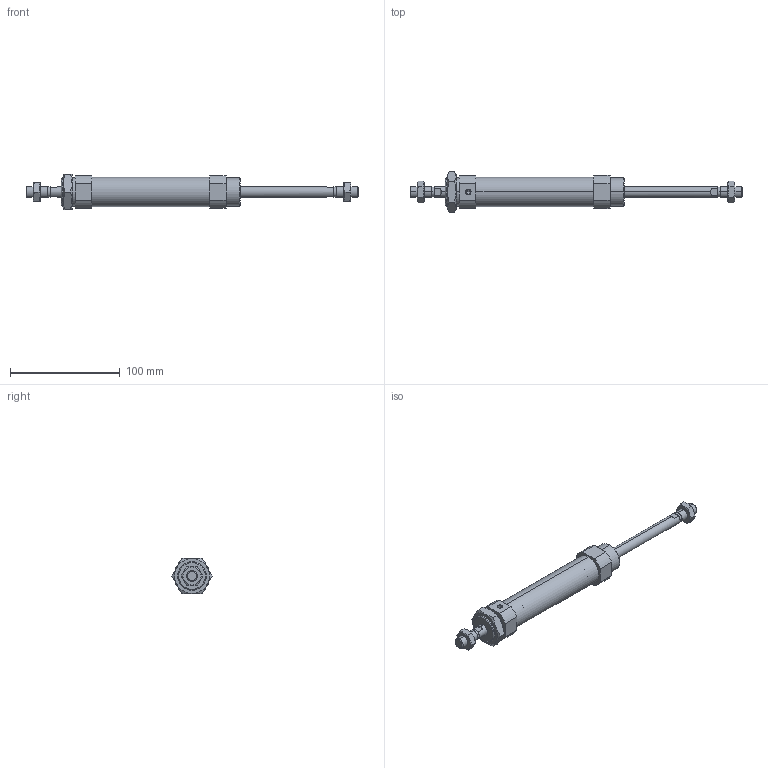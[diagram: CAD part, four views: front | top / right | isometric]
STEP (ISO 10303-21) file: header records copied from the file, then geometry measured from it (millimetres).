
FILE_DESCRIPTION (( 'STEP AP203' ), '1' );
FILE_NAME ('CSM2B25-75-P.STEP', '2020-07-20T16:43:06', ( '' ), ( '' ), 'SwSTEP 2.0', 'SolidWorks 2019', '' );
FILE_SCHEMA (( 'CONFIG_CONTROL_DESIGN' ));
Length unit declared in the file: millimetre
Products named in the file (1): CSM2B25-75-P
Bounding box: 302 x 36.95 x 32 mm (x, y, z)
Volume: 81665.4 mm3; surface area: 40803.5 mm2
Topology: 5 solids, 5 shells, 152 faces, 356 edges, 223 vertices
Faces by surface type: plane 62, cylinder 46, cone 44
Entity records: 5355 total; most frequent: CARTESIAN_POINT 1796, DIRECTION 738, ORIENTED_EDGE 708, EDGE_CURVE 354, AXIS2_PLACEMENT_3D 291, VERTEX_POINT 223, EDGE_LOOP 175, LINE 156
